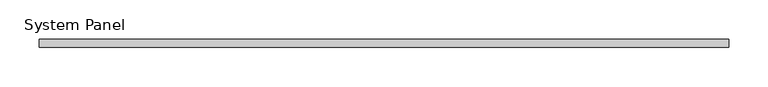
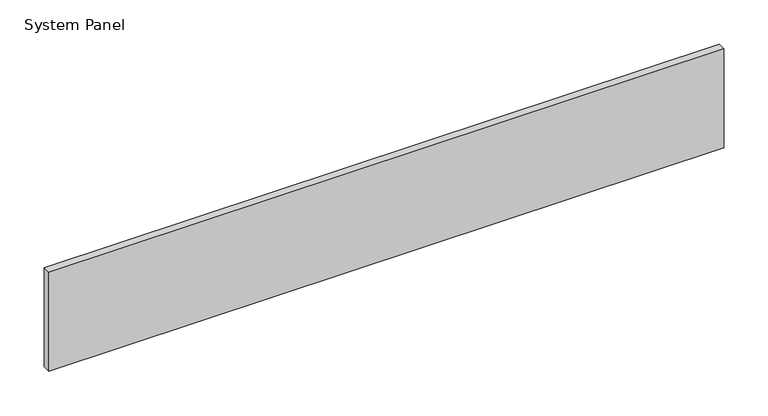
"""IFC4 building model written with IfcOpenShell, lengths in millimetres: plate geometry, System Panel : VACÍO."""

from ifc_helpers import new_model, si_unit, origin, origin_with_axes, place, context, project, spatial, polyline, outline, extrude, source, transform, mapped, element, save


def system_panel_837103f9(model_context):
    return source(origin(), model_context, "Body", "SweptSolid", [
        extrude(outline(polyline([(438.0, -5.0), (-438.0, -5.0), (-438.0, 5.0), (438.0, 5.0), (438.0, -5.0)])), origin_with_axes(), (0.0, 0.0, 1.0), 136.0),
    ])


if __name__ == "__main__":
    model = new_model("IFC4")
    model_context = context("Model", 3, world=origin())
    ifc_project = project(units=[si_unit("LENGTHUNIT", "METRE", prefix="MILLI")], contexts=[model_context])
    site = spatial("IfcSite", under=ifc_project)
    building = spatial("IfcBuilding", under=site)
    placement = place(None, origin())
    system_panel_shape = system_panel_837103f9(model_context)
    element("IfcPlate", 1, ObjectType="System Panel : VACÍO", at=placement, inside=building, context=model_context, shape_type="MappedRepresentation", body=[
        mapped(system_panel_shape, transform((0.0, 0.0, 0.0), x_axis=(1.0, 0.0, 0.0), y_axis=(0.0, 1.0, 0.0), z_axis=(0.0, 0.0, 1.0))),
    ])
    save(model, "model.ifc")
